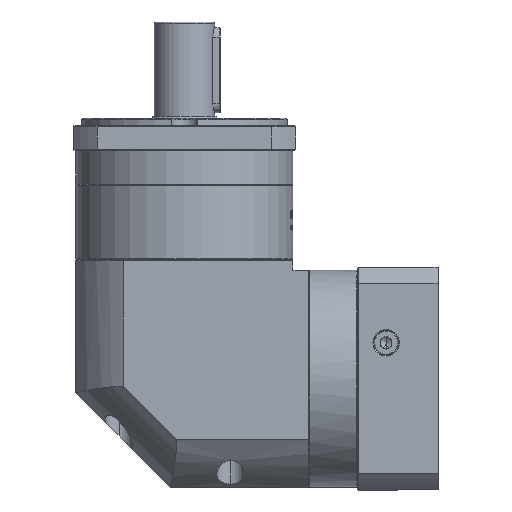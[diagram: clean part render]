
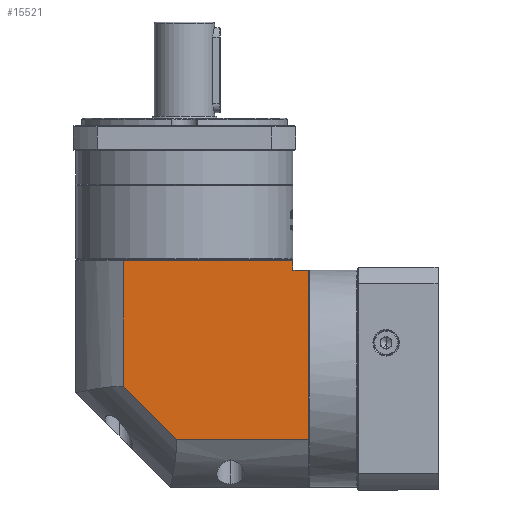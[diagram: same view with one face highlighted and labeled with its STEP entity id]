
A CAD part, left-side view. The second image highlights one B-rep face of the part: STEP entity #15521.
In plain terms, the highlighted planar face has unit normal (-1, 0, 0).
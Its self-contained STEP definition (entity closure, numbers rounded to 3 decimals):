
#1810 = LINE ( 'NONE', #19053, #24443 ) ;
#2094 = EDGE_CURVE ( 'NONE', #161411, #31892, #74325, .T. ) ;
#7449 = CARTESIAN_POINT ( 'NONE',  ( -280.88, -137.387, 39.039 ) ) ;
#11344 = VECTOR ( 'NONE', #140354, 1000. ) ;
#14578 = CARTESIAN_POINT ( 'NONE',  ( -280.88, -39.087, -22.523 ) ) ;
#15208 = VECTOR ( 'NONE', #70667, 1000. ) ;
#15521 = ADVANCED_FACE ( 'NONE', ( #26914 ), #147022, .F. ) ;
#16699 = ORIENTED_EDGE ( 'NONE', *, *, #69408, .F. ) ;
#19020 = VERTEX_POINT ( 'NONE', #19571 ) ;
#19053 = CARTESIAN_POINT ( 'NONE',  ( -280.88, -13.987, 44.039 ) ) ;
#19571 = CARTESIAN_POINT ( 'NONE',  ( -280.88, -128.987, 44.039 ) ) ;
#21769 = EDGE_CURVE ( 'NONE', #31892, #133137, #57770, .T. ) ;
#23634 = CARTESIAN_POINT ( 'NONE',  ( -280.88, -67.425, -50.861 ) ) ;
#24443 = VECTOR ( 'NONE', #72344, 1000. ) ;
#26914 = FACE_OUTER_BOUND ( 'NONE', #143638, .T. ) ;
#31892 = VERTEX_POINT ( 'NONE', #14578 ) ;
#44365 = CARTESIAN_POINT ( 'NONE',  ( -280.88, -13.987, 50.539 ) ) ;
#47646 = LINE ( 'NONE', #131391, #137974 ) ;
#49992 = VERTEX_POINT ( 'NONE', #7449 ) ;
#50501 = LINE ( 'NONE', #72979, #111990 ) ;
#55897 = EDGE_CURVE ( 'NONE', #102421, #161411, #50501, .T. ) ;
#56602 = EDGE_CURVE ( 'NONE', #49992, #130044, #164998, .T. ) ;
#57770 = LINE ( 'NONE', #134008, #61808 ) ;
#61808 = VECTOR ( 'NONE', #83455, 1000. ) ;
#62424 = CARTESIAN_POINT ( 'NONE',  ( -280.88, -67.425, -50.861 ) ) ;
#65772 = EDGE_CURVE ( 'NONE', #130044, #19020, #79088, .T. ) ;
#69408 = EDGE_CURVE ( 'NONE', #49992, #102421, #47646, .T. ) ;
#70544 = AXIS2_PLACEMENT_3D ( 'NONE', #44365, #81013, #136116 ) ;
#70667 = DIRECTION ( 'NONE',  ( 0., 1., 0. ) ) ;
#71842 = DIRECTION ( 'NONE',  ( 0., 1., 0. ) ) ;
#72344 = DIRECTION ( 'NONE',  ( 0., -1., 0. ) ) ;
#72979 = CARTESIAN_POINT ( 'NONE',  ( -280.88, -13.987, -50.861 ) ) ;
#74325 = LINE ( 'NONE', #23634, #127661 ) ;
#79088 = LINE ( 'NONE', #168945, #11344 ) ;
#80788 = EDGE_CURVE ( 'NONE', #133137, #19020, #1810, .T. ) ;
#80832 = DIRECTION ( 'NONE',  ( 0., 0., -1. ) ) ;
#81013 = DIRECTION ( 'NONE',  ( 1., 0., 0. ) ) ;
#83455 = DIRECTION ( 'NONE',  ( 0., 0., 1. ) ) ;
#87182 = ORIENTED_EDGE ( 'NONE', *, *, #21769, .F. ) ;
#87788 = DIRECTION ( 'NONE',  ( 0., 0.707, 0.707 ) ) ;
#102421 = VERTEX_POINT ( 'NONE', #127951 ) ;
#107869 = ORIENTED_EDGE ( 'NONE', *, *, #56602, .T. ) ;
#111990 = VECTOR ( 'NONE', #71842, 1000. ) ;
#116574 = ORIENTED_EDGE ( 'NONE', *, *, #65772, .T. ) ;
#122278 = CARTESIAN_POINT ( 'NONE',  ( -280.88, -128.987, 39.039 ) ) ;
#127661 = VECTOR ( 'NONE', #87788, 1000. ) ;
#127951 = CARTESIAN_POINT ( 'NONE',  ( -280.88, -137.387, -50.861 ) ) ;
#130044 = VERTEX_POINT ( 'NONE', #152352 ) ;
#131391 = CARTESIAN_POINT ( 'NONE',  ( -280.88, -137.387, 50.539 ) ) ;
#133137 = VERTEX_POINT ( 'NONE', #151015 ) ;
#134008 = CARTESIAN_POINT ( 'NONE',  ( -280.88, -39.087, 50.539 ) ) ;
#136116 = DIRECTION ( 'NONE',  ( 0., 1., 0. ) ) ;
#137974 = VECTOR ( 'NONE', #80832, 1000. ) ;
#139430 = ORIENTED_EDGE ( 'NONE', *, *, #2094, .F. ) ;
#140354 = DIRECTION ( 'NONE',  ( 0., 0., 1. ) ) ;
#143638 = EDGE_LOOP ( 'NONE', ( #87182, #139430, #167129, #16699, #107869, #116574, #161447 ) ) ;
#147022 = PLANE ( 'NONE',  #70544 ) ;
#151015 = CARTESIAN_POINT ( 'NONE',  ( -280.88, -39.087, 44.039 ) ) ;
#152352 = CARTESIAN_POINT ( 'NONE',  ( -280.88, -128.987, 39.039 ) ) ;
#161411 = VERTEX_POINT ( 'NONE', #62424 ) ;
#161447 = ORIENTED_EDGE ( 'NONE', *, *, #80788, .F. ) ;
#164998 = LINE ( 'NONE', #122278, #15208 ) ;
#167129 = ORIENTED_EDGE ( 'NONE', *, *, #55897, .F. ) ;
#168945 = CARTESIAN_POINT ( 'NONE',  ( -280.88, -128.987, -75.961 ) ) ;
